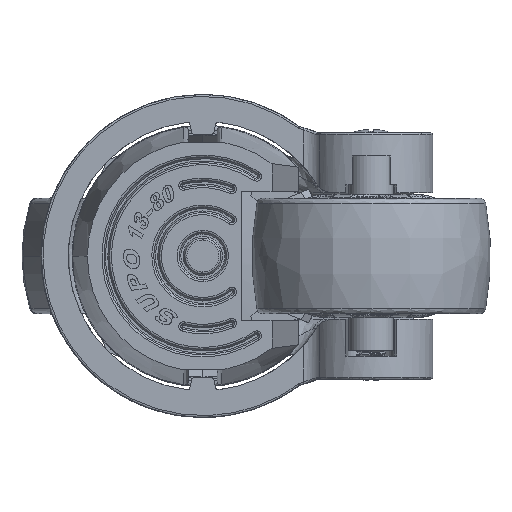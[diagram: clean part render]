
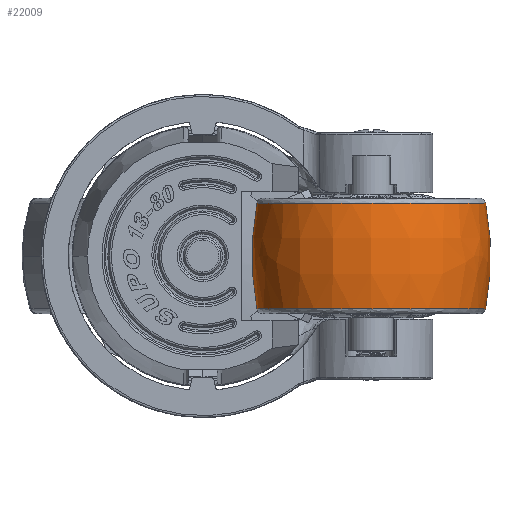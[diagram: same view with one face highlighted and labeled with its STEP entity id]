
A CAD part, front view. The second image highlights one B-rep face of the part: STEP entity #22009.
In plain terms, the highlighted free-form (B-spline) face has degree [3, 3] with [4, 4] control points.
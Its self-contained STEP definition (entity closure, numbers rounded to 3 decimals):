
#1745 = DIRECTION ( 'NONE',  ( 1., -0.006, 0. ) ) ;
#3177 = CIRCLE ( 'NONE', #164527, 29.737 ) ;
#4892 = DIRECTION ( 'NONE',  ( 0.982, 0., 0.189 ) ) ;
#6700 = CARTESIAN_POINT ( 'NONE',  ( 75.226, -134.351, 4.642 ) ) ;
#14139 = VERTEX_POINT ( 'NONE', #28414 ) ;
#17173 = DIRECTION ( 'NONE',  ( 0., 0., -1. ) ) ;
#17539 = AXIS2_PLACEMENT_3D ( 'NONE', #73633, #137430, #111437 ) ;
#17731 = CARTESIAN_POINT ( 'NONE',  ( 12.374, -134.351, 4.642 ) ) ;
#21477 = AXIS2_PLACEMENT_3D ( 'NONE', #68594, #55965, #107257 ) ;
#22009 = ADVANCED_FACE ( 'NONE', ( #128809 ), #141300, .F. ) ;
#28414 = CARTESIAN_POINT ( 'NONE',  ( 73.537, -71.689, -13.773 ) ) ;
#29621 = ORIENTED_EDGE ( 'NONE', *, *, #67310, .T. ) ;
#31327 = VERTEX_POINT ( 'NONE', #96897 ) ;
#36459 = CIRCLE ( 'NONE', #17539, 29.737 ) ;
#37608 = CIRCLE ( 'NONE', #118251, 29.737 ) ;
#37717 = CARTESIAN_POINT ( 'NONE',  ( 73.537, -71.5, 13.773 ) ) ;
#38122 = CARTESIAN_POINT ( 'NONE',  ( 73.537, -71.689, 13.773 ) ) ;
#49247 = CIRCLE ( 'NONE', #103062, 75.75 ) ;
#53118 = EDGE_CURVE ( 'NONE', #163367, #14139, #3177, .T. ) ;
#55834 = CARTESIAN_POINT ( 'NONE',  ( 14.063, -71.5, 13.773 ) ) ;
#55965 = DIRECTION ( 'NONE',  ( 0., -1., 0. ) ) ;
#56016 = EDGE_CURVE ( 'NONE', #164769, #70823, #66829, .T. ) ;
#57294 = CARTESIAN_POINT ( 'NONE',  ( 73.537, -71.5, -13.773 ) ) ;
#58546 = ORIENTED_EDGE ( 'NONE', *, *, #53118, .T. ) ;
#65803 = CARTESIAN_POINT ( 'NONE',  ( 43.8, -71.5, -13.773 ) ) ;
#66829 = CIRCLE ( 'NONE', #77709, 29.737 ) ;
#67310 = EDGE_CURVE ( 'NONE', #70823, #163367, #131664, .T. ) ;
#68594 = CARTESIAN_POINT ( 'NONE',  ( 88.55, -71.5, 0. ) ) ;
#69413 = CARTESIAN_POINT ( 'NONE',  ( 43.8, -71.5, 13.773 ) ) ;
#70823 = VERTEX_POINT ( 'NONE', #55834 ) ;
#73130 = DIRECTION ( 'NONE',  ( 0., 0., 1. ) ) ;
#73633 = CARTESIAN_POINT ( 'NONE',  ( 43.8, -71.5, 13.773 ) ) ;
#74825 = EDGE_CURVE ( 'NONE', #14139, #31327, #37608, .T. ) ;
#75232 = ORIENTED_EDGE ( 'NONE', *, *, #129150, .F. ) ;
#77709 = AXIS2_PLACEMENT_3D ( 'NONE', #69413, #17173, #153708 ) ;
#81761 = CARTESIAN_POINT ( 'NONE',  ( 14.063, -71.5, 13.773 ) ) ;
#83190 = CARTESIAN_POINT ( 'NONE',  ( 14.063, -71.5, -13.773 ) ) ;
#83397 = CARTESIAN_POINT ( 'NONE',  ( 75.226, -71.5, -4.642 ) ) ;
#84070 = DIRECTION ( 'NONE',  ( 1., -0.006, 0. ) ) ;
#85088 = CARTESIAN_POINT ( 'NONE',  ( 73.537, -130.975, 13.773 ) ) ;
#95276 = CARTESIAN_POINT ( 'NONE',  ( 14.063, -130.975, -13.773 ) ) ;
#96897 = CARTESIAN_POINT ( 'NONE',  ( 73.537, -71.5, -13.773 ) ) ;
#97711 = CARTESIAN_POINT ( 'NONE',  ( 12.374, -134.351, -4.642 ) ) ;
#101867 = ORIENTED_EDGE ( 'NONE', *, *, #74825, .T. ) ;
#103062 = AXIS2_PLACEMENT_3D ( 'NONE', #147055, #120152, #4892 ) ;
#107257 = DIRECTION ( 'NONE',  ( -0.982, 0., 0.189 ) ) ;
#107788 = CARTESIAN_POINT ( 'NONE',  ( 14.063, -130.975, 13.773 ) ) ;
#109495 = EDGE_CURVE ( 'NONE', #128567, #164769, #36459, .T. ) ;
#111113 = CARTESIAN_POINT ( 'NONE',  ( 73.537, -130.975, -13.773 ) ) ;
#111437 = DIRECTION ( 'NONE',  ( 1., -0.006, 0. ) ) ;
#117052 = DIRECTION ( 'NONE',  ( 0., 0., 1. ) ) ;
#117724 = EDGE_LOOP ( 'NONE', ( #140477, #123377, #29621, #58546, #101867, #75232 ) ) ;
#118251 = AXIS2_PLACEMENT_3D ( 'NONE', #65803, #117052, #1745 ) ;
#120152 = DIRECTION ( 'NONE',  ( 0., 1., 0. ) ) ;
#123377 = ORIENTED_EDGE ( 'NONE', *, *, #56016, .T. ) ;
#128567 = VERTEX_POINT ( 'NONE', #37717 ) ;
#128809 = FACE_OUTER_BOUND ( 'NONE', #117724, .T. ) ;
#129150 = EDGE_CURVE ( 'NONE', #128567, #31327, #49247, .T. ) ;
#131664 = CIRCLE ( 'NONE', #21477, 75.75 ) ;
#134584 = CARTESIAN_POINT ( 'NONE',  ( 75.226, -134.351, -4.642 ) ) ;
#136111 = CARTESIAN_POINT ( 'NONE',  ( 43.8, -71.5, -13.773 ) ) ;
#137430 = DIRECTION ( 'NONE',  ( 0., 0., -1. ) ) ;
#140477 = ORIENTED_EDGE ( 'NONE', *, *, #109495, .T. ) ;
#141300 =( BOUNDED_SURFACE ( )  B_SPLINE_SURFACE ( 3, 3, ( 
 ( #146423, #85088, #107788, #81761 ),
 ( #161487, #6700, #17731, #160653 ),
 ( #83397, #134584, #97711, #159017 ),
 ( #57294, #111113, #95276, #162345 ) ),
 .UNSPECIFIED., .F., .F., .F. ) 
 B_SPLINE_SURFACE_WITH_KNOTS ( ( 4, 4 ),
 ( 4, 4 ),
 ( 0., 1. ),
 ( 0., 1. ),
 .UNSPECIFIED. ) 
 GEOMETRIC_REPRESENTATION_ITEM ( )  RATIONAL_B_SPLINE_SURFACE ( (
 ( 1., 0.333, 0.333, 1.),
 ( 0.989, 0.33, 0.33, 0.989),
 ( 0.989, 0.33, 0.33, 0.989),
 ( 1., 0.333, 0.333, 1.) ) ) 
 REPRESENTATION_ITEM ( '' )  SURFACE ( )  );
#146423 = CARTESIAN_POINT ( 'NONE',  ( 73.537, -71.5, 13.773 ) ) ;
#147055 = CARTESIAN_POINT ( 'NONE',  ( -0.95, -71.5, 0. ) ) ;
#153708 = DIRECTION ( 'NONE',  ( 1., -0.006, 0. ) ) ;
#159017 = CARTESIAN_POINT ( 'NONE',  ( 12.374, -71.5, -4.642 ) ) ;
#160653 = CARTESIAN_POINT ( 'NONE',  ( 12.374, -71.5, 4.642 ) ) ;
#161487 = CARTESIAN_POINT ( 'NONE',  ( 75.226, -71.5, 4.642 ) ) ;
#162345 = CARTESIAN_POINT ( 'NONE',  ( 14.063, -71.5, -13.773 ) ) ;
#163367 = VERTEX_POINT ( 'NONE', #83190 ) ;
#164527 = AXIS2_PLACEMENT_3D ( 'NONE', #136111, #73130, #84070 ) ;
#164769 = VERTEX_POINT ( 'NONE', #38122 ) ;
